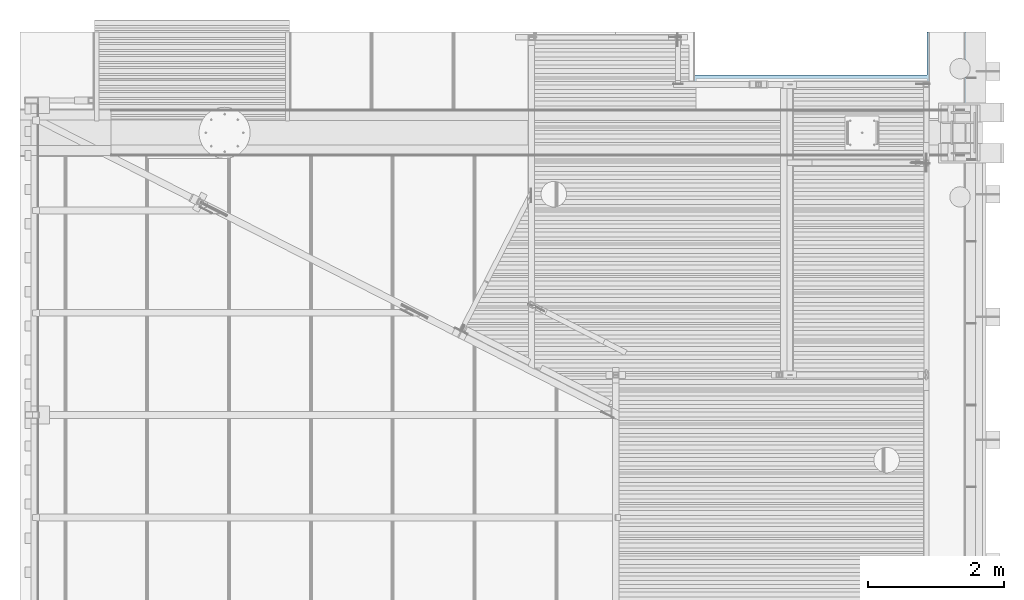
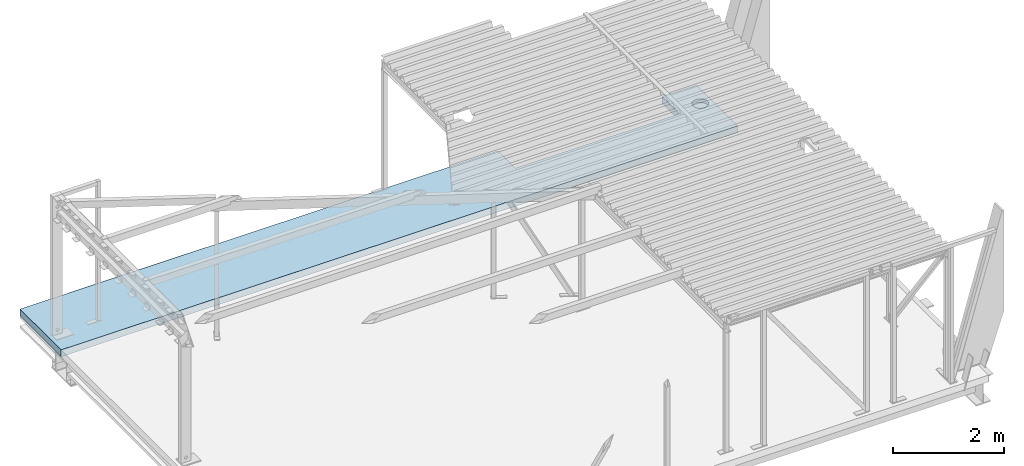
# One storey, part 28 of 30: 1 slab.
"""IFC2X3 building model written with IfcOpenShell, lengths in millimetres."""

from ifc_helpers import new_model, entity, si_unit, converted_unit, derived_unit, direction, frame, origin_with_axes, place, context, subcontext, project, spatial, faceted_brep, type_object, element, save


model = new_model("IFC2X3")

# Units and contexts
model_context = context("Model", 3, precision=0.01, world=frame((0.0, 4.29681676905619e-09, 0.0)), true_north=direction((4.01073788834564e-13, 1.0)))
plan_context = context("Plan", 3, precision=0.01, world=frame((0.0, 4.29681676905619e-09, 0.0)), true_north=direction((4.01073788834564e-13, 1.0)))
body_context = subcontext(model_context, "Body", "Model", "MODEL_VIEW")
ifc_project = project(units=[converted_unit("PLANEANGLEUNIT", "DEGREE", entity("IfcPositiveLengthMeasure", 0.0174532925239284), si_unit("PLANEANGLEUNIT", "RADIAN"), dimensions=[0, 0, 0, 0, 0, 0, 0]), si_unit("AREAUNIT", "SQUARE_METRE"), si_unit("LENGTHUNIT", "METRE", prefix="MILLI"), si_unit("MASSUNIT", "GRAM", prefix="KILO"), si_unit("POWERUNIT", "WATT"), si_unit("PRESSUREUNIT", "PASCAL"), si_unit("FORCEUNIT", "NEWTON", prefix="KILO"), si_unit("ELECTRICVOLTAGEUNIT", "VOLT"), si_unit("ELECTRICCURRENTUNIT", "AMPERE"), si_unit("THERMODYNAMICTEMPERATUREUNIT", "DEGREE_CELSIUS"), si_unit("TIMEUNIT", "SECOND"), si_unit("VOLUMEUNIT", "CUBIC_METRE"), derived_unit("LINEARVELOCITYUNIT", [(si_unit("LENGTHUNIT", "METRE"), 1), (si_unit("TIMEUNIT", "SECOND"), -1)]), derived_unit("VOLUMETRICFLOWRATEUNIT", [(si_unit("VOLUMEUNIT", "CUBIC_METRE"), 1), (si_unit("TIMEUNIT", "SECOND"), -1)]), derived_unit("THERMALTRANSMITTANCEUNIT", [(si_unit("POWERUNIT", "WATT"), 1), (si_unit("THERMODYNAMICTEMPERATUREUNIT", "KELVIN"), -1), (si_unit("AREAUNIT", "SQUARE_METRE"), -1)]), derived_unit("SOUNDPRESSUREUNIT", [(si_unit("PRESSUREUNIT", "PASCAL"), 1)])], contexts=[model_context, plan_context])

# Site, building, storey
site_placement = place(None, frame((0.0, -4.29681676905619e-09, 0.0), z_axis=(0.0, 0.0, 1.0), x_axis=(1.0, 0.0, 0.0)))
site = spatial("IfcSite", under=ifc_project, at=site_placement, Name="Gardermoen", CompositionType="ELEMENT")
building_placement = place(site_placement, frame((0.0, 4.29681676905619e-09, 0.0), z_axis=(0.0, 0.0, 1.0), x_axis=(1.0, 0.0, 0.0)))
building = spatial("IfcBuilding", under=site, at=building_placement, Name="TI", CompositionType="ELEMENT")
storey_placement = place(building_placement, origin_with_axes())
storey = spatial("IfcBuildingStorey", under=building, at=storey_placement, Name="F", CompositionType="ELEMENT", Elevation=0.0)

# Slab
slab_type = type_object("IfcSlabType", Name="150*9000", PredefinedType="NOTDEFINED")
slab_placement = place(storey_placement, frame((571984.997027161, 698000.0, 210755.0), z_axis=(0.0, 1.0, 0.0), x_axis=(1.0, 0.0, 0.0)))
element("IfcSlab", 1, at=slab_placement, inside=storey, type_object=slab_type, Name="PÅSTØP", ObjectType="150*9000", PredefinedType="FLOOR", context=body_context, shape_type="Brep", body=[
    faceted_brep([(26015.0029727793, 75.0, 4.89451613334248e-07), (26015.0029727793, -75.0, 5.13978000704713e-07), (40029.9960937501, -75.0, 7.90809281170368e-07), (40029.9960937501, 75.0, 7.90809281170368e-07), (40029.9967341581, -75.0, 1475.4999999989), (40029.9967341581, 75.0, 1475.4999999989), (35915.0051206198, -75.0, 1475.4999999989), (35915.0051206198, 75.0, 1475.4999999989), (35915.00599923, 75.0, 849.996421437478), (35915.00599923, -75.0, 849.996421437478), (39315.0018436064, 75.0, 850.006675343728), (39315.0018436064, -75.0, 850.006675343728), (39315.0018440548, 75.0, 1475.4999999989), (39315.0018440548, -75.0, 1475.4999999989), (39650.7252638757, 5.00000001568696, 954.702571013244), (39652.8851808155, 5.00000001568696, 969.26354826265), (39661.421042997, 5.00000001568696, 997.402514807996), (39675.2825310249, 5.00000001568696, 1023.33553489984), (39693.9369556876, 5.00000001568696, 1046.06601711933), (39716.667437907, 5.00000001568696, 1064.72044178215), (39742.6004579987, 5.00000001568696, 1078.58192981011), (39770.7394245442, 5.00000001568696, 1087.1177919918), (39800.0029728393, 5.00000001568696, 1089.99999993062), (39829.2665211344, 5.00000001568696, 1087.1177919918), (39857.4054876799, 5.00000001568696, 1078.58192981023), (39883.3385077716, 5.00000001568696, 1064.72044178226), (39906.0689899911, 5.00000001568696, 1046.06601711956), (39924.7234146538, 5.00000001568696, 1023.33553490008), (39938.5849026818, 5.00000001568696, 997.402514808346), (39947.1207648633, 5.00000001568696, 969.263548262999), (39950.0029728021, 5.00000001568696, 939.999999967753), (39947.1207648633, 5.00000001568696, 910.736451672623), (39938.5849026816, 5.00000001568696, 882.597485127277), (39924.7234146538, 5.00000001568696, 856.664465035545), (39906.068989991, 5.00000001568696, 833.933982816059), (39883.3385077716, 5.00000001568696, 815.279558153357), (39857.4054876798, 5.00000001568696, 801.418070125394), (39829.2665211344, 5.00000001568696, 792.882207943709), (39800.0029728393, 5.00000001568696, 790.000000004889), (39770.7394245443, 5.00000001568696, 792.882207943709), (39742.6004579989, 5.00000001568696, 801.418070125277), (39716.6674379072, 5.00000001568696, 815.279558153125), (39693.9369556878, 5.00000001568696, 833.933982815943), (39675.282531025, 5.00000001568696, 856.664465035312), (39661.4210429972, 5.00000001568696, 882.597485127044), (39652.8851808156, 5.00000001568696, 910.736451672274), (39650.7252638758, 5.00000001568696, 925.29742892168), (39650.0029728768, 5.00000001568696, 939.99999996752), (39950.0029728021, -75.0, 939.999999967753), (39947.1207648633, -75.0, 969.263548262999), (39947.1207648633, -75.0, 910.736451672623), (39938.5849026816, -75.0, 882.597485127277), (39924.7234146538, -75.0, 856.664465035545), (39906.068989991, -75.0, 833.933982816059), (39883.3385077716, -75.0, 815.279558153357), (39857.4054876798, -75.0, 801.418070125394), (39829.2665211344, -75.0, 792.882207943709), (39800.0029728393, -75.0, 790.000000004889), (39770.7394245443, -75.0, 792.882207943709), (39742.6004579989, -75.0, 801.418070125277), (39716.6674379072, -75.0, 815.279558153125), (39693.9369556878, -75.0, 833.933982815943), (39675.282531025, -75.0, 856.664465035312), (39661.4210429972, -75.0, 882.597485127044), (39652.8851808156, -75.0, 910.736451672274), (39650.7252638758, -75.0, 925.29742892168), (39650.0029728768, -75.0, 939.99999996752), (39650.7252638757, -75.0, 954.702571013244), (39652.8851808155, -75.0, 969.26354826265), (39661.421042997, -75.0, 997.402514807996), (39675.2825310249, -75.0, 1023.33553489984), (39693.9369556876, -75.0, 1046.06601711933), (39716.667437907, -75.0, 1064.72044178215), (39742.6004579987, -75.0, 1078.58192981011), (39770.7394245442, -75.0, 1087.1177919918), (39800.0029728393, -75.0, 1089.99999993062), (39829.2665211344, -75.0, 1087.1177919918), (39857.4054876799, -75.0, 1078.58192981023), (39883.3385077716, -75.0, 1064.72044178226), (39906.0689899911, -75.0, 1046.06601711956), (39924.7234146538, -75.0, 1023.33553490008), (39938.5849026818, -75.0, 997.402514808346), (26015.0029727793, -74.9999999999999, 1475.4999999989), (26015.0029727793, 75.0, 1475.4999999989)], [[[0, 1, 2, 3]], [[4, 5, 3, 2]], [[6, 7, 8, 9]], [[9, 8, 10, 11]], [[12, 13, 11, 10]], [[14, 15, 16, 17, 18, 19, 20, 21, 22, 23, 24, 25, 26, 27, 28, 29, 30, 31, 32, 33, 34, 35, 36, 37, 38, 39, 40, 41, 42, 43, 44, 45, 46, 47]], [[48, 30, 29, 49]], [[50, 31, 30, 48]], [[51, 32, 31, 50]], [[52, 33, 32, 51]], [[53, 34, 33, 52]], [[54, 35, 34, 53]], [[55, 36, 35, 54]], [[56, 37, 36, 55]], [[57, 38, 37, 56]], [[58, 39, 38, 57]], [[59, 40, 39, 58]], [[60, 41, 40, 59]], [[61, 42, 41, 60]], [[62, 43, 42, 61]], [[63, 44, 43, 62]], [[64, 45, 44, 63]], [[65, 46, 45, 64]], [[66, 47, 46, 65]], [[67, 14, 47, 66]], [[68, 15, 14, 67]], [[69, 16, 15, 68]], [[70, 17, 16, 69]], [[71, 18, 17, 70]], [[72, 19, 18, 71]], [[73, 20, 19, 72]], [[74, 21, 20, 73]], [[75, 22, 21, 74]], [[76, 23, 22, 75]], [[77, 24, 23, 76]], [[78, 25, 24, 77]], [[79, 26, 25, 78]], [[80, 27, 26, 79]], [[81, 28, 27, 80]], [[49, 29, 28, 81]], [[1, 82, 6, 9, 11, 13, 4, 2], [50, 48, 49, 81, 80, 79, 78, 77, 76, 75, 74, 73, 72, 71, 70, 69, 68, 67, 66, 65, 64, 63, 62, 61, 60, 59, 58, 57, 56, 55, 54, 53, 52, 51]], [[5, 12, 10, 8, 7, 83, 0, 3]], [[83, 7, 6, 82]], [[13, 12, 5, 4]], [[82, 1, 0, 83]]], orient=[[False], [False], [False], [False], [False], [False], [False], [False], [False], [False], [False], [False], [False], [False], [False], [False], [False], [False], [False], [False], [False], [False], [False], [False], [False], [False], [False], [False], [False], [False], [False], [False], [False], [False], [False], [False], [False], [False], [False], [False], [False, False], [False], [False], [False], [False]]),
])

save(model, "model.ifc")
